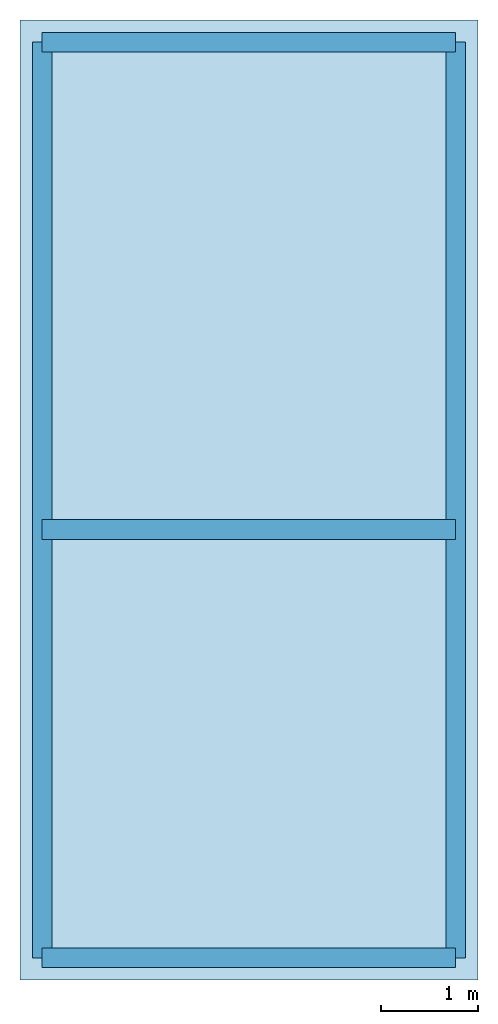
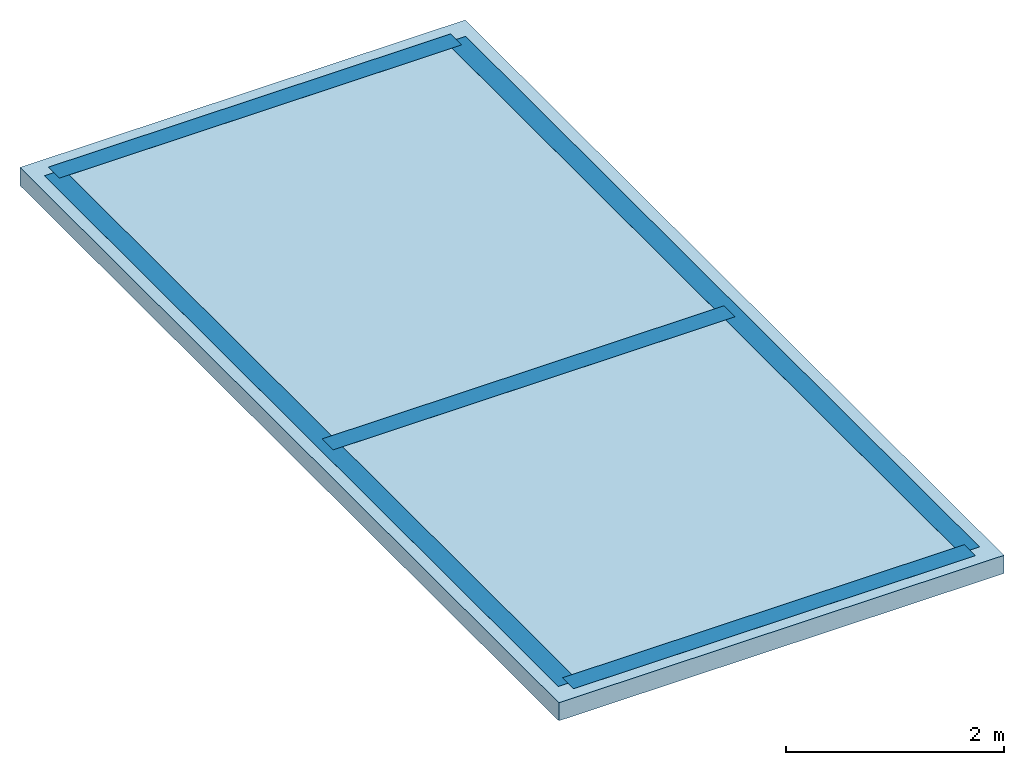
# One storey: 5 beams, 1 slab.
"""IFC2X3 building model written with IfcOpenShell, lengths in millimetres."""

from ifc_helpers import new_model, entity, si_unit, converted_unit, direction, frame, frame_2d, origin_with_axes, place, context, subcontext, project, spatial, polyline, rectangle, outline, extrude, material, layer, layer_set, layer_usage, type_object, element, save


model = new_model("IFC2X3")

# Units and contexts
model_context = context("Model", 3, precision=1e-05, world=origin_with_axes(), true_north=direction((0.0, 1.0)))
body_context = subcontext(model_context, "Body", "Model", "MODEL_VIEW")
ifc_project = project(units=[si_unit("LENGTHUNIT", "METRE", prefix="MILLI"), si_unit("AREAUNIT", "SQUARE_METRE"), si_unit("VOLUMEUNIT", "CUBIC_METRE"), converted_unit("PLANEANGLEUNIT", "DEGREE", entity("IfcPlaneAngleMeasure", 0.017453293), si_unit("PLANEANGLEUNIT", "RADIAN"), dimensions=[0, 0, 0, 0, 0, 0, 0]), si_unit("SOLIDANGLEUNIT", "STERADIAN"), si_unit("MASSUNIT", "GRAM"), si_unit("TIMEUNIT", "SECOND"), si_unit("THERMODYNAMICTEMPERATUREUNIT", "DEGREE_CELSIUS"), si_unit("LUMINOUSINTENSITYUNIT", "LUMEN")], contexts=[model_context])

# Site, building, storey
site_placement = place(None, origin_with_axes())
site = spatial("IfcSite", under=ifc_project, at=site_placement, Name="Sitio", CompositionType="ELEMENT")
building_placement = place(site_placement, origin_with_axes())
building = spatial("IfcBuilding", under=site, at=building_placement, Name="Ejemplo_StruBIM", CompositionType="ELEMENT")
storey_placement = place(building_placement, frame((0.0, 0.0, 19202.4), z_axis=(0.0, 0.0, 1.0), x_axis=(1.0, 0.0, 0.0)))
storey = spatial("IfcBuildingStorey", under=building, at=storey_placement, Name="Stand", CompositionType="ELEMENT", Elevation=19202.4)

# Beams
ifc_material = material(Name="Hormigón armado")
beam_type = type_object("IfcBeamType", Name="12\"X8\"", PredefinedType="NOTDEFINED")
for number, where, z_axis, x_axis, name in (
    (1, (13411.2, 8991.6, 0.0), (0.0, 0.0, 1.0), (0.0, 1.0, 0.0), "Viga-055"),
    (2, (13411.2, 4572.0, 0.0), (0.0, 0.0, 1.0), (0.0, 1.0, 0.0), "Viga-054"),
):
    element("IfcBeam", number, at=place(storey_placement, frame(where, z_axis=z_axis, x_axis=x_axis)), inside=storey, type_object=beam_type, material=ifc_material, Name=name, ObjectType="12\"X8\"", context=body_context, shape_type="SweptSolid", body=[
        extrude(rectangle(XDim=304.8, YDim=203.2, at=frame_2d((-152.4, 0.0), x_axis=(1.0, 0.0))), frame((0.0, 0.0, 0.0), z_axis=(0.0, 1.0, 0.0), x_axis=(0.0, 0.0, 1.0)), (0.0, 0.0, 1.0), 4267.2),
    ])
beam_1_placement = place(storey_placement, frame((9144.0, 4572.0, 0.0), z_axis=(0.0, 0.0, 1.0), x_axis=(1.0, 0.0, 0.0)))
element("IfcBeam", 3, at=beam_1_placement, inside=storey, type_object=beam_type, material=ifc_material, Name="Viga-051", ObjectType="12\"X8\"", context=body_context, shape_type="SweptSolid", body=[
    extrude(rectangle(XDim=304.8, YDim=203.2, at=frame_2d((-152.4, 0.0), x_axis=(1.0, 0.0))), frame((0.0, 0.0, 0.0), z_axis=(0.0, 1.0, 0.0), x_axis=(0.0, 0.0, 1.0)), (0.0, 0.0, 1.0), 9448.8),
])
beam_2_placement = place(storey_placement, frame((9144.0, 14020.8, 0.0), z_axis=(0.0, 0.0, 1.0), x_axis=(0.0, -1.0, 0.0)))
element("IfcBeam", 4, at=beam_2_placement, inside=storey, type_object=beam_type, material=ifc_material, Name="Viga-052", ObjectType="12\"X8\"", context=body_context, shape_type="SweptSolid", body=[
    extrude(rectangle(XDim=304.8, YDim=203.2, at=frame_2d((-152.4, 0.0), x_axis=(1.0, 0.0))), frame((0.0, 0.0, 0.0), z_axis=(0.0, 1.0, 0.0), x_axis=(0.0, 0.0, 1.0)), (0.0, 0.0, 1.0), 4267.2),
])
beam_3_placement = place(storey_placement, frame((13411.2, 14020.8, 0.0), z_axis=(0.0, 0.0, 1.0), x_axis=(-1.0, 0.0, 0.0)))
element("IfcBeam", 5, at=beam_3_placement, inside=storey, type_object=beam_type, material=ifc_material, Name="Viga-053", ObjectType="12\"X8\"", context=body_context, shape_type="SweptSolid", body=[
    extrude(rectangle(XDim=304.8, YDim=203.2, at=frame_2d((-152.4, 0.0), x_axis=(1.0, 0.0))), frame((0.0, 0.0, 0.0), z_axis=(0.0, 1.0, 0.0), x_axis=(0.0, 0.0, 1.0)), (0.0, 0.0, 1.0), 9448.8),
])

# Slab
ifc_layer = layer(ifc_material, 203.2, ventilated="UNKNOWN")
ifc_layer_set = layer_set([ifc_layer], Name="Hormigón armado 203.2")
ifc_layer_usage = layer_usage(ifc_layer_set, "AXIS3", "NEGATIVE", 203.2)
slab_placement = place(storey_placement, frame((8915.4, 14249.4, -203.2), z_axis=(0.0, 0.0, 1.0), x_axis=(1.0, 0.0, 0.0)))
element("IfcSlab", 6, at=slab_placement, inside=storey, material=ifc_layer_usage, Name="Forj-005", PredefinedType="FLOOR", context=body_context, shape_type="SweptSolid", body=[
    extrude(outline(polyline([(0.0, 0.0), (0.0, -9906.0), (4724.4, -9906.0), (4724.4, 0.0), (0.0, 0.0)])), origin_with_axes(), (0.0, 0.0, 1.0), 203.2),
])

save(model, "model.ifc")
